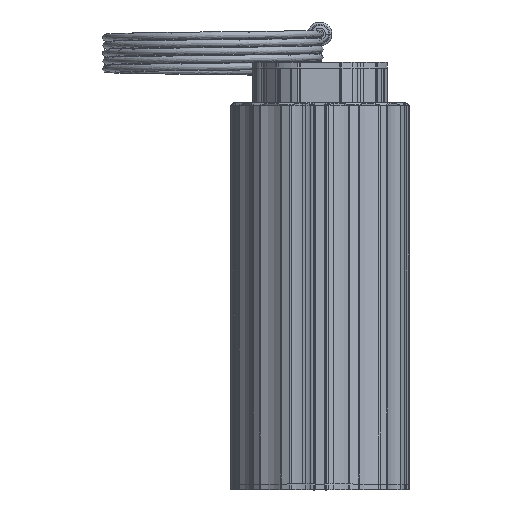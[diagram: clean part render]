
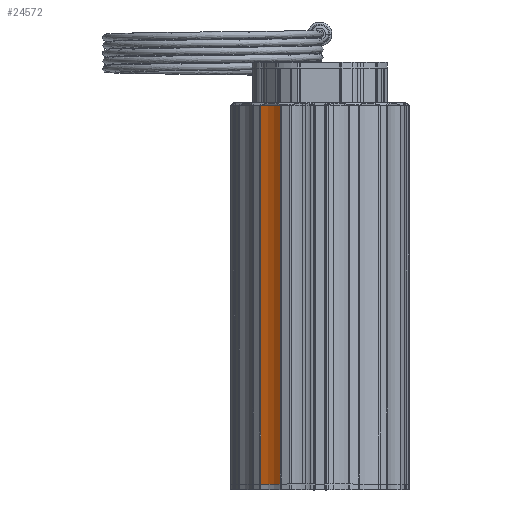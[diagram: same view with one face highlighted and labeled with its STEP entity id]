
A CAD part, top view. The second image highlights one B-rep face of the part: STEP entity #24572.
In plain terms, the highlighted cylindrical face has radius 33.332 mm (diameter 66.665 mm), a partial arc.
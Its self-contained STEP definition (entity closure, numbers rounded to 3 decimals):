
#22000 = VERTEX_POINT ( 'NONE', #67721 ) ;
#22002 = EDGE_CURVE ( 'NONE', #22000, #22003, #67716, .T. ) ;
#22003 = VERTEX_POINT ( 'NONE', #67710 ) ;
#22859 = EDGE_CURVE ( 'NONE', #22887, #22885, #70733, .T. ) ;
#22885 = VERTEX_POINT ( 'NONE', #70760 ) ;
#22887 = VERTEX_POINT ( 'NONE', #70759 ) ;
#24548 = ORIENTED_EDGE ( 'NONE', *, *, #22002, .F. ) ;
#24549 = ORIENTED_EDGE ( 'NONE', *, *, #24550, .F. ) ;
#24550 = EDGE_CURVE ( 'NONE', #22887, #22000, #75658, .T. ) ;
#24551 = ORIENTED_EDGE ( 'NONE', *, *, #22859, .T. ) ;
#24552 = ORIENTED_EDGE ( 'NONE', *, *, #24569, .T. ) ;
#24569 = EDGE_CURVE ( 'NONE', #22885, #22003, #75745, .T. ) ;
#24572 = ADVANCED_FACE ( 'NONE', ( #75730 ), #75722, .F. ) ;
#24573 = EDGE_LOOP ( 'NONE', ( #24548, #24549, #24551, #24552 ) ) ;
#67710 = CARTESIAN_POINT ( 'NONE',  ( 54.546, -31.39, -265.5 ) ) ;
#67711 = DIRECTION ( 'NONE',  ( 1., 0., 0. ) ) ;
#67712 = DIRECTION ( 'NONE',  ( 0., 0., 1. ) ) ;
#67713 = CARTESIAN_POINT ( 'NONE',  ( 87.521, -36.252, -265.5 ) ) ;
#67714 = AXIS2_PLACEMENT_3D ( 'NONE', #67713, #67712, #67711 ) ;
#67716 = CIRCLE ( 'NONE', #67714, 33.332 ) ;
#67721 = CARTESIAN_POINT ( 'NONE',  ( 60.765, -16.374, -265.5 ) ) ;
#70729 = DIRECTION ( 'NONE',  ( 1., 0., 0. ) ) ;
#70730 = DIRECTION ( 'NONE',  ( 0., 0., 1. ) ) ;
#70731 = CARTESIAN_POINT ( 'NONE',  ( 87.521, -36.252, 0. ) ) ;
#70732 = AXIS2_PLACEMENT_3D ( 'NONE', #70731, #70730, #70729 ) ;
#70733 = CIRCLE ( 'NONE', #70732, 33.332 ) ;
#70759 = CARTESIAN_POINT ( 'NONE',  ( 60.765, -16.374, 0. ) ) ;
#70760 = CARTESIAN_POINT ( 'NONE',  ( 54.546, -31.39, 0. ) ) ;
#75651 = DIRECTION ( 'NONE',  ( 0., 0., -1. ) ) ;
#75653 = VECTOR ( 'NONE', #75651, 1000. ) ;
#75655 = CARTESIAN_POINT ( 'NONE',  ( 60.765, -16.374, 0. ) ) ;
#75658 = LINE ( 'NONE', #75655, #75653 ) ;
#75716 = DIRECTION ( 'NONE',  ( -1., 0., 0. ) ) ;
#75718 = DIRECTION ( 'NONE',  ( 0., 0., -1. ) ) ;
#75719 = CARTESIAN_POINT ( 'NONE',  ( 87.521, -36.252, 0. ) ) ;
#75720 = AXIS2_PLACEMENT_3D ( 'NONE', #75719, #75718, #75716 ) ;
#75722 = CYLINDRICAL_SURFACE ( 'NONE', #75720, 33.332 ) ;
#75730 = FACE_OUTER_BOUND ( 'NONE', #24573, .T. ) ;
#75731 = DIRECTION ( 'NONE',  ( 0., 0., -1. ) ) ;
#75732 = VECTOR ( 'NONE', #75731, 1000. ) ;
#75733 = CARTESIAN_POINT ( 'NONE',  ( 54.546, -31.39, 0. ) ) ;
#75745 = LINE ( 'NONE', #75733, #75732 ) ;
